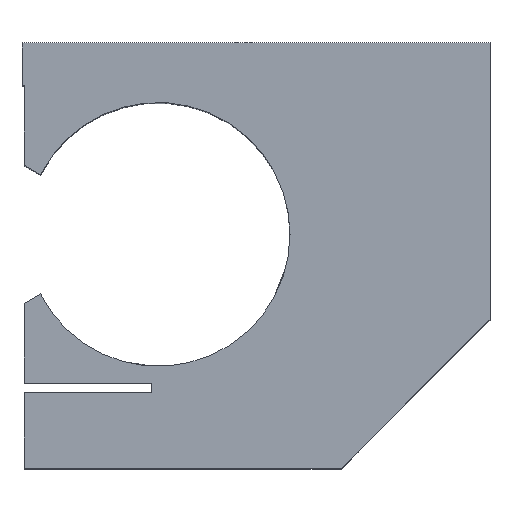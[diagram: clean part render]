
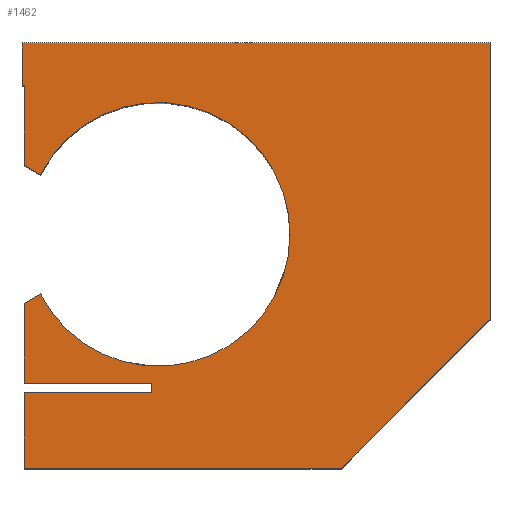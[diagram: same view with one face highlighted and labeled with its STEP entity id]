
A CAD part, top view. The second image highlights one B-rep face of the part: STEP entity #1462.
In plain terms, the highlighted planar face has unit normal (0, 0, 1).
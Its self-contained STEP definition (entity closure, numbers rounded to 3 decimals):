
#4 = CARTESIAN_POINT ( 'NONE',  ( -24.5, -30., 45.5 ) ) ;
#28 = LINE ( 'NONE', #414, #1568 ) ;
#38 = DIRECTION ( 'NONE',  ( -1., 0., 0. ) ) ;
#62 = VERTEX_POINT ( 'NONE', #796 ) ;
#88 = ORIENTED_EDGE ( 'NONE', *, *, #849, .T. ) ;
#104 = CARTESIAN_POINT ( 'NONE',  ( -54.5, 40., 45.5 ) ) ;
#107 = VERTEX_POINT ( 'NONE', #1142 ) ;
#109 = VERTEX_POINT ( 'NONE', #4 ) ;
#131 = ORIENTED_EDGE ( 'NONE', *, *, #756, .F. ) ;
#143 = CARTESIAN_POINT ( 'NONE',  ( -55., 50., 45.5 ) ) ;
#145 = CARTESIAN_POINT ( 'NONE',  ( -54.5, -32.15, 45.5 ) ) ;
#149 = CARTESIAN_POINT ( 'NONE',  ( -24.5, -32.15, 45.5 ) ) ;
#167 = LINE ( 'NONE', #149, #1179 ) ;
#174 = DIRECTION ( 'NONE',  ( 0.707, 0.707, 0. ) ) ;
#182 = DIRECTION ( 'NONE',  ( 0., 1., 0. ) ) ;
#190 = FACE_OUTER_BOUND ( 'NONE', #1543, .T. ) ;
#223 = DIRECTION ( 'NONE',  ( 1., 0., 0. ) ) ;
#237 = VERTEX_POINT ( 'NONE', #444 ) ;
#247 = DIRECTION ( 'NONE',  ( 1., 0., 0. ) ) ;
#250 = EDGE_CURVE ( 'NONE', #527, #291, #949, .T. ) ;
#269 = EDGE_CURVE ( 'NONE', #1234, #917, #684, .T. ) ;
#271 = CARTESIAN_POINT ( 'NONE',  ( -54.5, 40., 45.5 ) ) ;
#291 = VERTEX_POINT ( 'NONE', #145 ) ;
#292 = VECTOR ( 'NONE', #1087, 1000. ) ;
#303 = AXIS2_PLACEMENT_3D ( 'NONE', #1591, #717, #223 ) ;
#323 = CARTESIAN_POINT ( 'NONE',  ( -54.5, 40., 45.5 ) ) ;
#359 = VECTOR ( 'NONE', #1093, 1000. ) ;
#361 = ORIENTED_EDGE ( 'NONE', *, *, #614, .F. ) ;
#370 = CARTESIAN_POINT ( 'NONE',  ( -55., -50., 45.5 ) ) ;
#414 = CARTESIAN_POINT ( 'NONE',  ( -55., 50., 45.5 ) ) ;
#416 = VECTOR ( 'NONE', #38, 1000. ) ;
#417 = CARTESIAN_POINT ( 'NONE',  ( -24.5, -30., 45.5 ) ) ;
#425 = CARTESIAN_POINT ( 'NONE',  ( 35., -35., 45.5 ) ) ;
#434 = LINE ( 'NONE', #1601, #359 ) ;
#444 = CARTESIAN_POINT ( 'NONE',  ( -54.5, -30., 45.5 ) ) ;
#485 = CARTESIAN_POINT ( 'NONE',  ( -55., -11.506, 45.5 ) ) ;
#510 = CARTESIAN_POINT ( 'NONE',  ( -54.5, 40., 45.5 ) ) ;
#527 = VERTEX_POINT ( 'NONE', #746 ) ;
#529 = CARTESIAN_POINT ( 'NONE',  ( -55., 50., 45.5 ) ) ;
#544 = VECTOR ( 'NONE', #794, 1000. ) ;
#562 = LINE ( 'NONE', #1070, #822 ) ;
#566 = EDGE_CURVE ( 'NONE', #583, #1503, #1021, .T. ) ;
#571 = CIRCLE ( 'NONE', #1366, 31. ) ;
#579 = CARTESIAN_POINT ( 'NONE',  ( -24.5, -30., 45.5 ) ) ;
#583 = VERTEX_POINT ( 'NONE', #1398 ) ;
#584 = LINE ( 'NONE', #1308, #1464 ) ;
#614 = EDGE_CURVE ( 'NONE', #917, #895, #1494, .T. ) ;
#626 = EDGE_CURVE ( 'NONE', #107, #1465, #571, .T. ) ;
#652 = ORIENTED_EDGE ( 'NONE', *, *, #250, .F. ) ;
#673 = CARTESIAN_POINT ( 'NONE',  ( 20., -50., 45.5 ) ) ;
#684 = LINE ( 'NONE', #271, #1524 ) ;
#690 = CARTESIAN_POINT ( 'NONE',  ( -23., 5., 45.5 ) ) ;
#717 = DIRECTION ( 'NONE',  ( 0., 0., 1. ) ) ;
#723 = ORIENTED_EDGE ( 'NONE', *, *, #566, .F. ) ;
#730 = ORIENTED_EDGE ( 'NONE', *, *, #1266, .T. ) ;
#738 = VERTEX_POINT ( 'NONE', #673 ) ;
#746 = CARTESIAN_POINT ( 'NONE',  ( -54.5, -50., 45.5 ) ) ;
#750 = ORIENTED_EDGE ( 'NONE', *, *, #998, .F. ) ;
#756 = EDGE_CURVE ( 'NONE', #1465, #1234, #562, .T. ) ;
#766 = DIRECTION ( 'NONE',  ( -1., 0., 0. ) ) ;
#768 = DIRECTION ( 'NONE',  ( -1., 0., 0. ) ) ;
#794 = DIRECTION ( 'NONE',  ( -1., 0., 0. ) ) ;
#796 = CARTESIAN_POINT ( 'NONE',  ( 55., 50., 45.5 ) ) ;
#806 = EDGE_CURVE ( 'NONE', #877, #109, #974, .T. ) ;
#822 = VECTOR ( 'NONE', #1406, 1000. ) ;
#827 = DIRECTION ( 'NONE',  ( 0., 1., 0. ) ) ;
#849 = EDGE_CURVE ( 'NONE', #877, #291, #167, .T. ) ;
#861 = VECTOR ( 'NONE', #247, 1000. ) ;
#877 = VERTEX_POINT ( 'NONE', #1363 ) ;
#891 = DIRECTION ( 'NONE',  ( 0., 0., 1. ) ) ;
#895 = VERTEX_POINT ( 'NONE', #1492 ) ;
#901 = VECTOR ( 'NONE', #766, 1000. ) ;
#914 = CIRCLE ( 'NONE', #963, 31. ) ;
#917 = VERTEX_POINT ( 'NONE', #510 ) ;
#947 = EDGE_CURVE ( 'NONE', #62, #1268, #1411, .T. ) ;
#949 = LINE ( 'NONE', #323, #1230 ) ;
#956 = DIRECTION ( 'NONE',  ( 0., 0., 1. ) ) ;
#963 = AXIS2_PLACEMENT_3D ( 'NONE', #690, #956, #1319 ) ;
#974 = LINE ( 'NONE', #579, #292 ) ;
#995 = ORIENTED_EDGE ( 'NONE', *, *, #626, .F. ) ;
#996 = EDGE_CURVE ( 'NONE', #738, #1133, #1168, .T. ) ;
#998 = EDGE_CURVE ( 'NONE', #109, #237, #1416, .T. ) ;
#1012 = ORIENTED_EDGE ( 'NONE', *, *, #269, .F. ) ;
#1021 = LINE ( 'NONE', #485, #1530 ) ;
#1033 = DIRECTION ( 'NONE',  ( 0., -1., 0. ) ) ;
#1049 = ORIENTED_EDGE ( 'NONE', *, *, #1200, .T. ) ;
#1070 = CARTESIAN_POINT ( 'NONE',  ( -50.659, 19., 45.5 ) ) ;
#1082 = ORIENTED_EDGE ( 'NONE', *, *, #1482, .F. ) ;
#1087 = DIRECTION ( 'NONE',  ( 0., 1., 0. ) ) ;
#1091 = ORIENTED_EDGE ( 'NONE', *, *, #806, .F. ) ;
#1093 = DIRECTION ( 'NONE',  ( 0., 1., 0. ) ) ;
#1133 = VERTEX_POINT ( 'NONE', #1631 ) ;
#1142 = CARTESIAN_POINT ( 'NONE',  ( 8., 5., 45.5 ) ) ;
#1168 = LINE ( 'NONE', #425, #1522 ) ;
#1179 = VECTOR ( 'NONE', #768, 1000. ) ;
#1185 = CARTESIAN_POINT ( 'NONE',  ( -50.659, 19., 45.5 ) ) ;
#1199 = ORIENTED_EDGE ( 'NONE', *, *, #947, .T. ) ;
#1200 = EDGE_CURVE ( 'NONE', #527, #738, #1498, .T. ) ;
#1210 = PLANE ( 'NONE',  #303 ) ;
#1230 = VECTOR ( 'NONE', #1329, 1000. ) ;
#1234 = VERTEX_POINT ( 'NONE', #1265 ) ;
#1261 = CARTESIAN_POINT ( 'NONE',  ( -23., 5., 45.5 ) ) ;
#1265 = CARTESIAN_POINT ( 'NONE',  ( -54.5, 21.218, 45.5 ) ) ;
#1266 = EDGE_CURVE ( 'NONE', #1268, #895, #28, .T. ) ;
#1268 = VERTEX_POINT ( 'NONE', #143 ) ;
#1308 = CARTESIAN_POINT ( 'NONE',  ( 55., 50., 45.5 ) ) ;
#1319 = DIRECTION ( 'NONE',  ( 1., 0., 0. ) ) ;
#1329 = DIRECTION ( 'NONE',  ( 0., 1., 0. ) ) ;
#1363 = CARTESIAN_POINT ( 'NONE',  ( -24.5, -32.15, 45.5 ) ) ;
#1366 = AXIS2_PLACEMENT_3D ( 'NONE', #1261, #891, #1502 ) ;
#1383 = EDGE_CURVE ( 'NONE', #237, #583, #434, .T. ) ;
#1398 = CARTESIAN_POINT ( 'NONE',  ( -54.5, -11.218, 45.5 ) ) ;
#1406 = DIRECTION ( 'NONE',  ( -0.866, 0.5, 0. ) ) ;
#1411 = LINE ( 'NONE', #529, #544 ) ;
#1416 = LINE ( 'NONE', #417, #416 ) ;
#1429 = EDGE_CURVE ( 'NONE', #1133, #62, #584, .T. ) ;
#1462 = ADVANCED_FACE ( 'NONE', ( #190 ), #1210, .T. ) ;
#1464 = VECTOR ( 'NONE', #827, 1000. ) ;
#1465 = VERTEX_POINT ( 'NONE', #1185 ) ;
#1466 = CARTESIAN_POINT ( 'NONE',  ( -50.659, -9., 45.5 ) ) ;
#1482 = EDGE_CURVE ( 'NONE', #1503, #107, #914, .T. ) ;
#1491 = ORIENTED_EDGE ( 'NONE', *, *, #996, .T. ) ;
#1492 = CARTESIAN_POINT ( 'NONE',  ( -55., 40., 45.5 ) ) ;
#1494 = LINE ( 'NONE', #104, #901 ) ;
#1498 = LINE ( 'NONE', #370, #861 ) ;
#1502 = DIRECTION ( 'NONE',  ( 1., 0., 0. ) ) ;
#1503 = VERTEX_POINT ( 'NONE', #1466 ) ;
#1522 = VECTOR ( 'NONE', #174, 1000. ) ;
#1523 = DIRECTION ( 'NONE',  ( 0.866, 0.5, 0. ) ) ;
#1524 = VECTOR ( 'NONE', #182, 1000. ) ;
#1530 = VECTOR ( 'NONE', #1523, 1000. ) ;
#1543 = EDGE_LOOP ( 'NONE', ( #361, #1012, #131, #995, #1082, #723, #1636, #750, #1091, #88, #652, #1049, #1491, #1590, #1199, #730 ) ) ;
#1568 = VECTOR ( 'NONE', #1033, 1000. ) ;
#1590 = ORIENTED_EDGE ( 'NONE', *, *, #1429, .T. ) ;
#1591 = CARTESIAN_POINT ( 'NONE',  ( 0., 0., 45.5 ) ) ;
#1601 = CARTESIAN_POINT ( 'NONE',  ( -54.5, 40., 45.5 ) ) ;
#1631 = CARTESIAN_POINT ( 'NONE',  ( 55., -15., 45.5 ) ) ;
#1636 = ORIENTED_EDGE ( 'NONE', *, *, #1383, .F. ) ;
